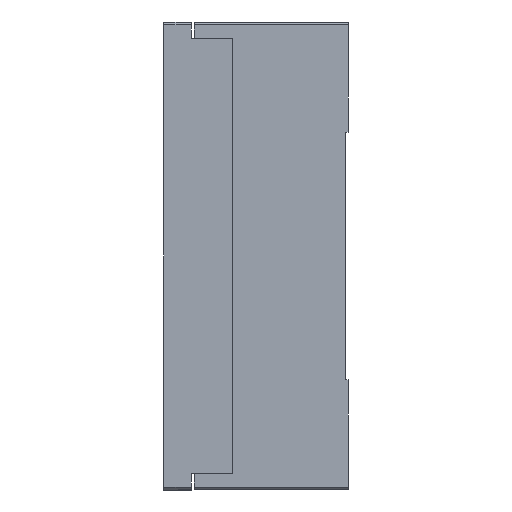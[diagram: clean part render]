
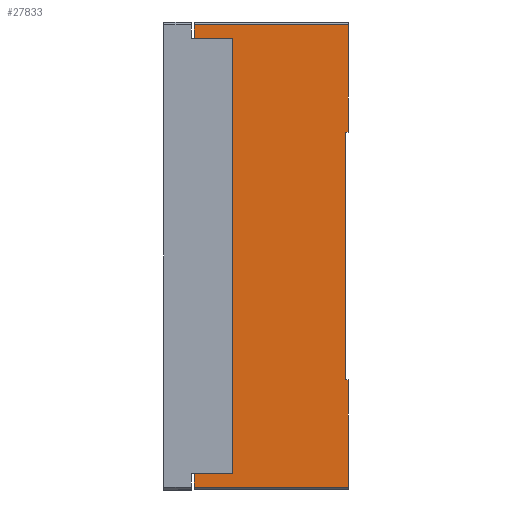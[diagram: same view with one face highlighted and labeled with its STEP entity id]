
A CAD part, left-side view. The second image highlights one B-rep face of the part: STEP entity #27833.
In plain terms, the highlighted planar face has unit normal (-1, 0, 0).
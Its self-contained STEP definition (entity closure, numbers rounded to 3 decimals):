
#114 = EDGE_CURVE ( 'NONE', #13541, #17440, #38664, .T. ) ;
#140 = CARTESIAN_POINT ( 'NONE',  ( -105., 1., 45. ) ) ;
#274 = ORIENTED_EDGE ( 'NONE', *, *, #31433, .T. ) ;
#290 = LINE ( 'NONE', #25621, #7317 ) ;
#357 = DIRECTION ( 'NONE',  ( 0., -1., 0. ) ) ;
#1272 = VERTEX_POINT ( 'NONE', #25496 ) ;
#1423 = CARTESIAN_POINT ( 'NONE',  ( -105., 0., -45. ) ) ;
#1757 = CARTESIAN_POINT ( 'NONE',  ( -105., 56., -79. ) ) ;
#2029 = DIRECTION ( 'NONE',  ( 0., 1., 0. ) ) ;
#2100 = EDGE_CURVE ( 'NONE', #1272, #9544, #7706, .T. ) ;
#2648 = DIRECTION ( 'NONE',  ( 0., 0., 1. ) ) ;
#3158 = VECTOR ( 'NONE', #26690, 1000. ) ;
#3888 = LINE ( 'NONE', #41312, #4040 ) ;
#4000 = ORIENTED_EDGE ( 'NONE', *, *, #22109, .F. ) ;
#4040 = VECTOR ( 'NONE', #41191, 1000. ) ;
#5154 = VERTEX_POINT ( 'NONE', #6541 ) ;
#5593 = EDGE_CURVE ( 'NONE', #8495, #40731, #3888, .T. ) ;
#6301 = CARTESIAN_POINT ( 'NONE',  ( -105., 56., 85. ) ) ;
#6347 = DIRECTION ( 'NONE',  ( -1., 0., 0. ) ) ;
#6541 = CARTESIAN_POINT ( 'NONE',  ( -105., 56., -79. ) ) ;
#6943 = VERTEX_POINT ( 'NONE', #14211 ) ;
#7317 = VECTOR ( 'NONE', #25261, 1000. ) ;
#7706 = LINE ( 'NONE', #29530, #8164 ) ;
#7892 = CARTESIAN_POINT ( 'NONE',  ( -105., 1., -45. ) ) ;
#8164 = VECTOR ( 'NONE', #29575, 1000. ) ;
#8495 = VERTEX_POINT ( 'NONE', #17551 ) ;
#8666 = LINE ( 'NONE', #26775, #3158 ) ;
#9544 = VERTEX_POINT ( 'NONE', #31612 ) ;
#10426 = EDGE_CURVE ( 'NONE', #6943, #5154, #8666, .T. ) ;
#10856 = ORIENTED_EDGE ( 'NONE', *, *, #5593, .F. ) ;
#11024 = LINE ( 'NONE', #1423, #41286 ) ;
#11153 = VERTEX_POINT ( 'NONE', #7892 ) ;
#13016 = VECTOR ( 'NONE', #13311, 1000. ) ;
#13311 = DIRECTION ( 'NONE',  ( 0., -1., 0. ) ) ;
#13541 = VERTEX_POINT ( 'NONE', #20039 ) ;
#13559 = LINE ( 'NONE', #1757, #29645 ) ;
#13632 = VECTOR ( 'NONE', #15600, 1000. ) ;
#13916 = LINE ( 'NONE', #18945, #16298 ) ;
#14211 = CARTESIAN_POINT ( 'NONE',  ( -105., 56., -84. ) ) ;
#14533 = ORIENTED_EDGE ( 'NONE', *, *, #23471, .F. ) ;
#15600 = DIRECTION ( 'NONE',  ( 0., 0., -1. ) ) ;
#15695 = CARTESIAN_POINT ( 'NONE',  ( -105., 0., 85. ) ) ;
#15855 = CARTESIAN_POINT ( 'NONE',  ( -105., 56., 79. ) ) ;
#15992 = DIRECTION ( 'NONE',  ( 0., -1., 0. ) ) ;
#16200 = EDGE_CURVE ( 'NONE', #13541, #31940, #30432, .T. ) ;
#16208 = FACE_OUTER_BOUND ( 'NONE', #33084, .T. ) ;
#16268 = ORIENTED_EDGE ( 'NONE', *, *, #17374, .T. ) ;
#16298 = VECTOR ( 'NONE', #16619, 1000. ) ;
#16313 = ORIENTED_EDGE ( 'NONE', *, *, #2100, .F. ) ;
#16619 = DIRECTION ( 'NONE',  ( 0., 0., -1. ) ) ;
#17374 = EDGE_CURVE ( 'NONE', #19856, #17440, #29393, .T. ) ;
#17440 = VERTEX_POINT ( 'NONE', #25549 ) ;
#17551 = CARTESIAN_POINT ( 'NONE',  ( -105., 0., 45. ) ) ;
#18945 = CARTESIAN_POINT ( 'NONE',  ( -105., 1., -45. ) ) ;
#19434 = CARTESIAN_POINT ( 'NONE',  ( -105., 42., 79. ) ) ;
#19768 = VERTEX_POINT ( 'NONE', #32733 ) ;
#19856 = VERTEX_POINT ( 'NONE', #27749 ) ;
#19954 = EDGE_CURVE ( 'NONE', #31940, #19768, #290, .T. ) ;
#20039 = CARTESIAN_POINT ( 'NONE',  ( -105., 56., 79. ) ) ;
#22109 = EDGE_CURVE ( 'NONE', #40731, #11153, #13916, .T. ) ;
#22845 = CARTESIAN_POINT ( 'NONE',  ( -105., 56., 85. ) ) ;
#22889 = DIRECTION ( 'NONE',  ( 0., 0., 1. ) ) ;
#23366 = AXIS2_PLACEMENT_3D ( 'NONE', #6301, #6347, #2648 ) ;
#23471 = EDGE_CURVE ( 'NONE', #11153, #1272, #11024, .T. ) ;
#24299 = ORIENTED_EDGE ( 'NONE', *, *, #16200, .T. ) ;
#25261 = DIRECTION ( 'NONE',  ( 0., 0., -1. ) ) ;
#25496 = CARTESIAN_POINT ( 'NONE',  ( -105., 0., -45. ) ) ;
#25549 = CARTESIAN_POINT ( 'NONE',  ( -105., 56., 84. ) ) ;
#25621 = CARTESIAN_POINT ( 'NONE',  ( -105., 42., 70. ) ) ;
#26127 = CARTESIAN_POINT ( 'NONE',  ( -105., 0., -84. ) ) ;
#26690 = DIRECTION ( 'NONE',  ( 0., 0., 1. ) ) ;
#26775 = CARTESIAN_POINT ( 'NONE',  ( -105., 56., 85. ) ) ;
#27749 = CARTESIAN_POINT ( 'NONE',  ( -105., 0., 84. ) ) ;
#27833 = ADVANCED_FACE ( 'NONE', ( #16208 ), #34102, .T. ) ;
#27868 = ORIENTED_EDGE ( 'NONE', *, *, #10426, .F. ) ;
#29274 = EDGE_CURVE ( 'NONE', #19856, #8495, #39017, .T. ) ;
#29393 = LINE ( 'NONE', #30174, #31849 ) ;
#29530 = CARTESIAN_POINT ( 'NONE',  ( -105., 0., 85. ) ) ;
#29575 = DIRECTION ( 'NONE',  ( 0., 0., -1. ) ) ;
#29645 = VECTOR ( 'NONE', #2029, 1000. ) ;
#29744 = ORIENTED_EDGE ( 'NONE', *, *, #36951, .T. ) ;
#30174 = CARTESIAN_POINT ( 'NONE',  ( -105., 56., 84. ) ) ;
#30432 = LINE ( 'NONE', #15855, #40103 ) ;
#30641 = ORIENTED_EDGE ( 'NONE', *, *, #19954, .T. ) ;
#31433 = EDGE_CURVE ( 'NONE', #19768, #5154, #13559, .T. ) ;
#31612 = CARTESIAN_POINT ( 'NONE',  ( -105., 0., -84. ) ) ;
#31849 = VECTOR ( 'NONE', #33304, 1000. ) ;
#31940 = VERTEX_POINT ( 'NONE', #19434 ) ;
#32733 = CARTESIAN_POINT ( 'NONE',  ( -105., 42., -79. ) ) ;
#33084 = EDGE_LOOP ( 'NONE', ( #30641, #274, #27868, #29744, #16313, #14533, #4000, #10856, #33334, #16268, #40407, #24299 ) ) ;
#33304 = DIRECTION ( 'NONE',  ( 0., 1., 0. ) ) ;
#33334 = ORIENTED_EDGE ( 'NONE', *, *, #29274, .F. ) ;
#34102 = PLANE ( 'NONE',  #23366 ) ;
#36951 = EDGE_CURVE ( 'NONE', #6943, #9544, #37426, .T. ) ;
#37426 = LINE ( 'NONE', #26127, #13016 ) ;
#38664 = LINE ( 'NONE', #22845, #39530 ) ;
#39017 = LINE ( 'NONE', #15695, #13632 ) ;
#39530 = VECTOR ( 'NONE', #22889, 1000. ) ;
#40103 = VECTOR ( 'NONE', #15992, 1000. ) ;
#40407 = ORIENTED_EDGE ( 'NONE', *, *, #114, .F. ) ;
#40731 = VERTEX_POINT ( 'NONE', #140 ) ;
#41191 = DIRECTION ( 'NONE',  ( 0., 1., 0. ) ) ;
#41286 = VECTOR ( 'NONE', #357, 1000. ) ;
#41312 = CARTESIAN_POINT ( 'NONE',  ( -105., 0., 45. ) ) ;
